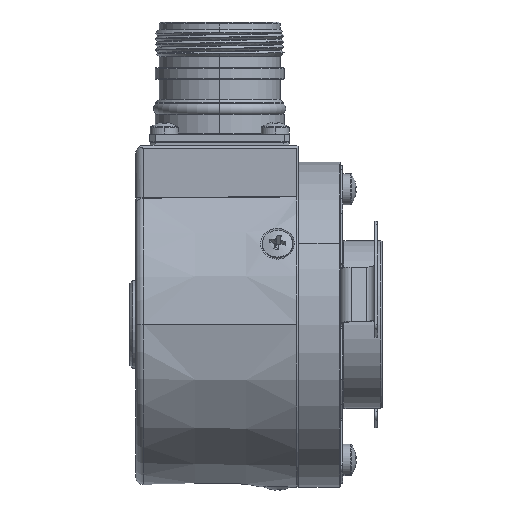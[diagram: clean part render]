
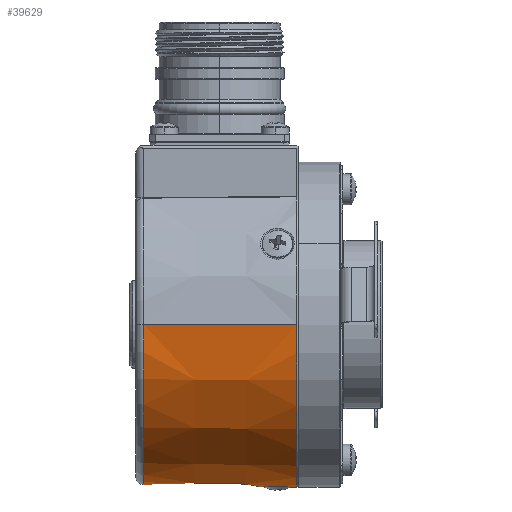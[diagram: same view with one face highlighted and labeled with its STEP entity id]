
A CAD part, left-side view. The second image highlights one B-rep face of the part: STEP entity #39629.
In plain terms, the highlighted conical face has half-angle 1 degrees and reference radius 28.565 mm.
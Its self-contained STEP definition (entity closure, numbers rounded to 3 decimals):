
#182 = CARTESIAN_POINT ( 'NONE',  ( -2.385, 1.646, -28.945 ) ) ;
#779 = CARTESIAN_POINT ( 'NONE',  ( -2.997, 2.673, -28.87 ) ) ;
#1427 = CARTESIAN_POINT ( 'NONE',  ( 29.068, 0.197, 0. ) ) ;
#2410 = CARTESIAN_POINT ( 'NONE',  ( -29.068, 0.197, 0. ) ) ;
#3169 = CARTESIAN_POINT ( 'NONE',  ( 2.534, 1.849, -28.928 ) ) ;
#3846 = VECTOR ( 'NONE', #53146, 1000. ) ;
#3900 = CARTESIAN_POINT ( 'NONE',  ( -28.591, 27.526, 0. ) ) ;
#4068 = CARTESIAN_POINT ( 'NONE',  ( 2.858, 2.355, -28.889 ) ) ;
#4135 = CARTESIAN_POINT ( 'NONE',  ( -3.059, 2.863, -28.86 ) ) ;
#4437 = CARTESIAN_POINT ( 'NONE',  ( -1.613, 6.282, -28.917 ) ) ;
#4752 = CARTESIAN_POINT ( 'NONE',  ( -2.834, 2.308, -28.892 ) ) ;
#4768 = VECTOR ( 'NONE', #54719, 1000. ) ;
#6599 = CIRCLE ( 'NONE', #7570, 28.591 ) ;
#7465 = CARTESIAN_POINT ( 'NONE',  ( 2.404, 1.696, -28.942 ) ) ;
#7570 = AXIS2_PLACEMENT_3D ( 'NONE', #15438, #57479, #34124 ) ;
#7788 = CARTESIAN_POINT ( 'NONE',  ( 1.953, 1.286, -28.984 ) ) ;
#8696 = CARTESIAN_POINT ( 'NONE',  ( 2.999, 4.668, -28.834 ) ) ;
#9125 = ORIENTED_EDGE ( 'NONE', *, *, #37350, .T. ) ;
#9370 = CARTESIAN_POINT ( 'NONE',  ( -3.036, 4.625, -28.831 ) ) ;
#9829 = CARTESIAN_POINT ( 'NONE',  ( -1.737, 1.146, -28.999 ) ) ;
#11481 = CARTESIAN_POINT ( 'NONE',  ( 28.565, 29., 0. ) ) ;
#12077 = CARTESIAN_POINT ( 'NONE',  ( 2.371, 5.688, -28.875 ) ) ;
#12363 = CARTESIAN_POINT ( 'NONE',  ( 3.014, 2.723, -28.867 ) ) ;
#12654 = CARTESIAN_POINT ( 'NONE',  ( 3.06, 4.481, -28.831 ) ) ;
#12858 = ORIENTED_EDGE ( 'NONE', *, *, #41539, .T. ) ;
#13945 = CARTESIAN_POINT ( 'NONE',  ( 0.998, 6.569, -28.942 ) ) ;
#15438 = CARTESIAN_POINT ( 'NONE',  ( 0., 27.526, 0. ) ) ;
#16622 = CARTESIAN_POINT ( 'NONE',  ( -1.381, 0.946, -29.022 ) ) ;
#16940 = CARTESIAN_POINT ( 'NONE',  ( -0.181, 0.65, -29.06 ) ) ;
#17010 = ORIENTED_EDGE ( 'NONE', *, *, #39989, .T. ) ;
#17058 = VERTEX_POINT ( 'NONE', #54825 ) ;
#17536 = CARTESIAN_POINT ( 'NONE',  ( 3.073, 2.911, -28.857 ) ) ;
#17857 = CARTESIAN_POINT ( 'NONE',  ( 0.441, 0.674, -29.057 ) ) ;
#18832 = CARTESIAN_POINT ( 'NONE',  ( -2.115, 5.932, -28.891 ) ) ;
#19413 = CARTESIAN_POINT ( 'NONE',  ( -3.166, 3.446, -28.838 ) ) ;
#20115 = EDGE_LOOP ( 'NONE', ( #12858, #9125 ) ) ;
#21816 = CARTESIAN_POINT ( 'NONE',  ( 2.503, 5.537, -28.866 ) ) ;
#21834 = LINE ( 'NONE', #11481, #4768 ) ;
#22428 = CARTESIAN_POINT ( 'NONE',  ( -0.387, 0.668, -29.058 ) ) ;
#23586 = EDGE_CURVE ( 'NONE', #39596, #48370, #21834, .T. ) ;
#23958 = B_SPLINE_CURVE_WITH_KNOTS ( 'NONE', 3,
 ( #32301, #42134, #13945, #56281, #55975, #51401, #42443, #47075, #4437, #31991, #18832, #56575, #46765, #24010, #9370, #37817, #28012, #19413, #41525, #4135, #779, #4752, #36903, #182, #32915, #37215 ),
 .UNSPECIFIED., .F., .F.,
 ( 4, 2, 2, 2, 2, 2, 2, 2, 2, 2, 2, 2, 4 ),
 ( 0.498, 0.56, 0.623, 0.654, 0.685, 0.717, 0.748, 0.81, 0.842, 0.873, 0.904, 0.935, 0.998 ),
 .UNSPECIFIED. ) ;
#24010 = CARTESIAN_POINT ( 'NONE',  ( -2.879, 4.997, -28.842 ) ) ;
#24873 = CARTESIAN_POINT ( 'NONE',  ( -28.565, 29., 0. ) ) ;
#25567 = CIRCLE ( 'NONE', #59907, 29.068 ) ;
#26408 = CARTESIAN_POINT ( 'NONE',  ( 2.737, 5.208, -28.851 ) ) ;
#26469 = FACE_OUTER_BOUND ( 'NONE', #50262, .T. ) ;
#27330 = CARTESIAN_POINT ( 'NONE',  ( 2.761, 2.178, -28.902 ) ) ;
#28012 = CARTESIAN_POINT ( 'NONE',  ( -3.17, 3.843, -28.83 ) ) ;
#29194 = LINE ( 'NONE', #24873, #3846 ) ;
#30747 = CARTESIAN_POINT ( 'NONE',  ( -0.997, 0.798, -29.041 ) ) ;
#31040 = CARTESIAN_POINT ( 'NONE',  ( -1.737, 1.146, -28.999 ) ) ;
#31991 = CARTESIAN_POINT ( 'NONE',  ( -1.957, 6.058, -28.9 ) ) ;
#32301 = CARTESIAN_POINT ( 'NONE',  ( 1.738, 6.2, -28.911 ) ) ;
#32915 = CARTESIAN_POINT ( 'NONE',  ( -2.085, 1.364, -28.975 ) ) ;
#34124 = DIRECTION ( 'NONE',  ( 1., 0., 0. ) ) ;
#35624 = CARTESIAN_POINT ( 'NONE',  ( -1.563, 1.038, -29.012 ) ) ;
#35928 = CARTESIAN_POINT ( 'NONE',  ( 1.738, 6.2, -28.911 ) ) ;
#36243 = CARTESIAN_POINT ( 'NONE',  ( 3.187, 3.897, -28.828 ) ) ;
#36449 = VERTEX_POINT ( 'NONE', #2410 ) ;
#36895 = DIRECTION ( 'NONE',  ( -1., 0., 0. ) ) ;
#36903 = CARTESIAN_POINT ( 'NONE',  ( -2.735, 2.136, -28.905 ) ) ;
#37215 = CARTESIAN_POINT ( 'NONE',  ( -1.737, 1.146, -28.999 ) ) ;
#37350 = EDGE_CURVE ( 'NONE', #17058, #59783, #23958, .T. ) ;
#37817 = CARTESIAN_POINT ( 'NONE',  ( -3.151, 4.041, -28.829 ) ) ;
#39596 = VERTEX_POINT ( 'NONE', #53826 ) ;
#39629 = ADVANCED_FACE ( 'NONE', ( #59039, #26469 ), #44172, .T. ) ;
#39989 = EDGE_CURVE ( 'NONE', #48370, #36449, #25567, .T. ) ;
#40103 = DIRECTION ( 'NONE',  ( 1., 0., 0. ) ) ;
#40573 = CARTESIAN_POINT ( 'NONE',  ( 1.053, 0.796, -29.041 ) ) ;
#40859 = CARTESIAN_POINT ( 'NONE',  ( 1.439, 0.952, -29.021 ) ) ;
#41525 = CARTESIAN_POINT ( 'NONE',  ( -3.144, 3.25, -28.844 ) ) ;
#41539 = EDGE_CURVE ( 'NONE', #59783, #17058, #49973, .T. ) ;
#42134 = CARTESIAN_POINT ( 'NONE',  ( 1.389, 6.418, -28.928 ) ) ;
#42443 = CARTESIAN_POINT ( 'NONE',  ( -1.048, 6.532, -28.939 ) ) ;
#43147 = ORIENTED_EDGE ( 'NONE', *, *, #43376, .T. ) ;
#43376 = EDGE_CURVE ( 'NONE', #57595, #39596, #6599, .T. ) ;
#44172 = CONICAL_SURFACE ( 'NONE', #49086, 28.565, 0.017 ) ;
#44851 = CARTESIAN_POINT ( 'NONE',  ( 0.233, 0.653, -29.06 ) ) ;
#44875 = ORIENTED_EDGE ( 'NONE', *, *, #54653, .F. ) ;
#45207 = CARTESIAN_POINT ( 'NONE',  ( 0., 29., 0. ) ) ;
#45464 = CARTESIAN_POINT ( 'NONE',  ( 2.076, 5.965, -28.893 ) ) ;
#46765 = CARTESIAN_POINT ( 'NONE',  ( -2.536, 5.495, -28.864 ) ) ;
#47075 = CARTESIAN_POINT ( 'NONE',  ( -1.43, 6.377, -28.925 ) ) ;
#48370 = VERTEX_POINT ( 'NONE', #1427 ) ;
#49037 = CARTESIAN_POINT ( 'NONE',  ( 0., 0.197, 0. ) ) ;
#49086 = AXIS2_PLACEMENT_3D ( 'NONE', #45207, #55657, #36895 ) ;
#49342 = DIRECTION ( 'NONE',  ( 0., 1., 0. ) ) ;
#49815 = CARTESIAN_POINT ( 'NONE',  ( 3.189, 3.494, -28.834 ) ) ;
#49973 = B_SPLINE_CURVE_WITH_KNOTS ( 'NONE', 3,
 ( #31040, #35624, #16622, #30747, #59592, #22428, #16940, #44851, #17857, #40573, #40859, #7788, #54401, #7465, #3169, #27330, #4068, #12363, #17536, #49815, #36243, #12654, #8696, #58668, #26408, #21816, #12077, #45464, #54698, #35928 ),
 .UNSPECIFIED., .F., .F.,
 ( 4, 2, 2, 2, 2, 2, 2, 2, 2, 2, 2, 2, 2, 2, 4 ),
 ( 0.998, 1.029, 1.06, 1.092, 1.123, 1.185, 1.217, 1.248, 1.279, 1.31, 1.373, 1.404, 1.435, 1.467, 1.498 ),
 .UNSPECIFIED. ) ;
#50262 = EDGE_LOOP ( 'NONE', ( #43147, #53140, #17010, #44875 ) ) ;
#51401 = CARTESIAN_POINT ( 'NONE',  ( -0.851, 6.591, -28.944 ) ) ;
#53140 = ORIENTED_EDGE ( 'NONE', *, *, #23586, .T. ) ;
#53146 = DIRECTION ( 'NONE',  ( -0.017, -1., 0. ) ) ;
#53826 = CARTESIAN_POINT ( 'NONE',  ( 28.591, 27.526, 0. ) ) ;
#54401 = CARTESIAN_POINT ( 'NONE',  ( 2.113, 1.413, -28.97 ) ) ;
#54653 = EDGE_CURVE ( 'NONE', #57595, #36449, #29194, .T. ) ;
#54698 = CARTESIAN_POINT ( 'NONE',  ( 1.913, 6.091, -28.902 ) ) ;
#54719 = DIRECTION ( 'NONE',  ( 0.017, -1., 0. ) ) ;
#54825 = CARTESIAN_POINT ( 'NONE',  ( 1.738, 6.2, -28.911 ) ) ;
#55657 = DIRECTION ( 'NONE',  ( 0., -1., 0. ) ) ;
#55975 = CARTESIAN_POINT ( 'NONE',  ( -0.24, 6.713, -28.956 ) ) ;
#56281 = CARTESIAN_POINT ( 'NONE',  ( 0.183, 6.716, -28.956 ) ) ;
#56575 = CARTESIAN_POINT ( 'NONE',  ( -2.405, 5.65, -28.873 ) ) ;
#57479 = DIRECTION ( 'NONE',  ( 0., -1., 0. ) ) ;
#57595 = VERTEX_POINT ( 'NONE', #3900 ) ;
#58668 = CARTESIAN_POINT ( 'NONE',  ( 2.837, 5.033, -28.844 ) ) ;
#59039 = FACE_BOUND ( 'NONE', #20115, .T. ) ;
#59592 = CARTESIAN_POINT ( 'NONE',  ( -0.796, 0.742, -29.048 ) ) ;
#59783 = VERTEX_POINT ( 'NONE', #9829 ) ;
#59907 = AXIS2_PLACEMENT_3D ( 'NONE', #49037, #49342, #40103 ) ;
